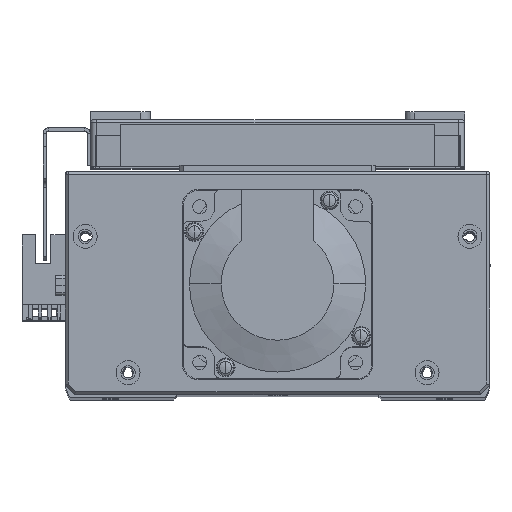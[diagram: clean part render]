
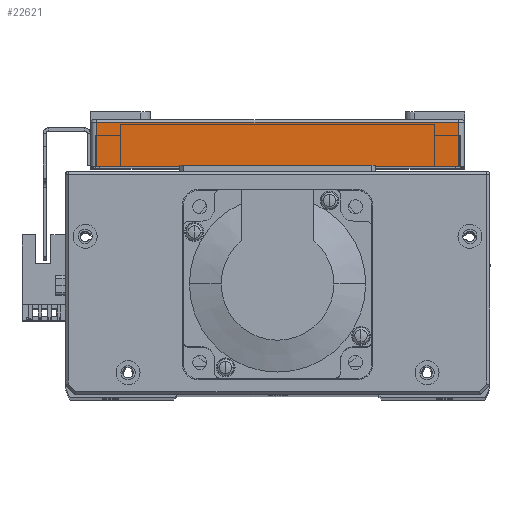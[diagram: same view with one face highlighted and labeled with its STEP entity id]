
A CAD part, top view. The second image highlights one B-rep face of the part: STEP entity #22621.
In plain terms, the highlighted planar face has unit normal (0, 0, 1) as drawn and (-1, 0, 0) by its records, which use the part's own axes.
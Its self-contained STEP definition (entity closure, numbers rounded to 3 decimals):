
#899 = EDGE_CURVE ( 'NONE', #39574, #39519, #5197, .T. ) ;
#941 = EDGE_CURVE ( 'NONE', #39519, #39488, #5270, .T. ) ;
#953 = EDGE_CURVE ( 'NONE', #39546, #39574, #5305, .T. ) ;
#981 = EDGE_CURVE ( 'NONE', #39488, #39546, #5341, .T. ) ;
#5184 = VECTOR ( 'NONE', #50474, 1000. ) ;
#5197 = LINE ( 'NONE', #50454, #5184 ) ;
#5258 = VECTOR ( 'NONE', #50581, 1000. ) ;
#5270 = LINE ( 'NONE', #50579, #5258 ) ;
#5292 = VECTOR ( 'NONE', #50607, 1000. ) ;
#5305 = LINE ( 'NONE', #50611, #5292 ) ;
#5341 = LINE ( 'NONE', #50663, #5351 ) ;
#5351 = VECTOR ( 'NONE', #50678, 1000. ) ;
#10718 = CARTESIAN_POINT ( 'NONE',  ( -95., 0., 57.5 ) ) ;
#10736 = CARTESIAN_POINT ( 'NONE',  ( -95., 14., 57.5 ) ) ;
#10761 = CARTESIAN_POINT ( 'NONE',  ( -95., 0., -57.5 ) ) ;
#10797 = CARTESIAN_POINT ( 'NONE',  ( -95., 14., -57.5 ) ) ;
#14341 = CARTESIAN_POINT ( 'NONE',  ( -95., 15., -59.5 ) ) ;
#14361 = DIRECTION ( 'NONE',  ( 0., 0., -1. ) ) ;
#14376 = PLANE ( 'NONE',  #42386 ) ;
#14419 = DIRECTION ( 'NONE',  ( 1., 0., 0. ) ) ;
#17314 = FACE_OUTER_BOUND ( 'NONE', #53609, .T. ) ;
#22621 = ADVANCED_FACE ( 'NONE', ( #17314 ), #14376, .F. ) ;
#23513 = ORIENTED_EDGE ( 'NONE', *, *, #953, .T. ) ;
#23520 = ORIENTED_EDGE ( 'NONE', *, *, #981, .T. ) ;
#23523 = ORIENTED_EDGE ( 'NONE', *, *, #941, .T. ) ;
#23627 = ORIENTED_EDGE ( 'NONE', *, *, #899, .T. ) ;
#39488 = VERTEX_POINT ( 'NONE', #10736 ) ;
#39519 = VERTEX_POINT ( 'NONE', #10718 ) ;
#39546 = VERTEX_POINT ( 'NONE', #10797 ) ;
#39574 = VERTEX_POINT ( 'NONE', #10761 ) ;
#42386 = AXIS2_PLACEMENT_3D ( 'NONE', #14341, #14419, #14361 ) ;
#50454 = CARTESIAN_POINT ( 'NONE',  ( -95., 0., -59.5 ) ) ;
#50474 = DIRECTION ( 'NONE',  ( 0., 0., 1. ) ) ;
#50579 = CARTESIAN_POINT ( 'NONE',  ( -95., 15., 57.5 ) ) ;
#50581 = DIRECTION ( 'NONE',  ( 0., 1., 0. ) ) ;
#50607 = DIRECTION ( 'NONE',  ( 0., -1., 0. ) ) ;
#50611 = CARTESIAN_POINT ( 'NONE',  ( -95., 15., -57.5 ) ) ;
#50663 = CARTESIAN_POINT ( 'NONE',  ( -95., 14., -57.5 ) ) ;
#50678 = DIRECTION ( 'NONE',  ( 0., 0., -1. ) ) ;
#53609 = EDGE_LOOP ( 'NONE', ( #23523, #23520, #23513, #23627 ) ) ;
